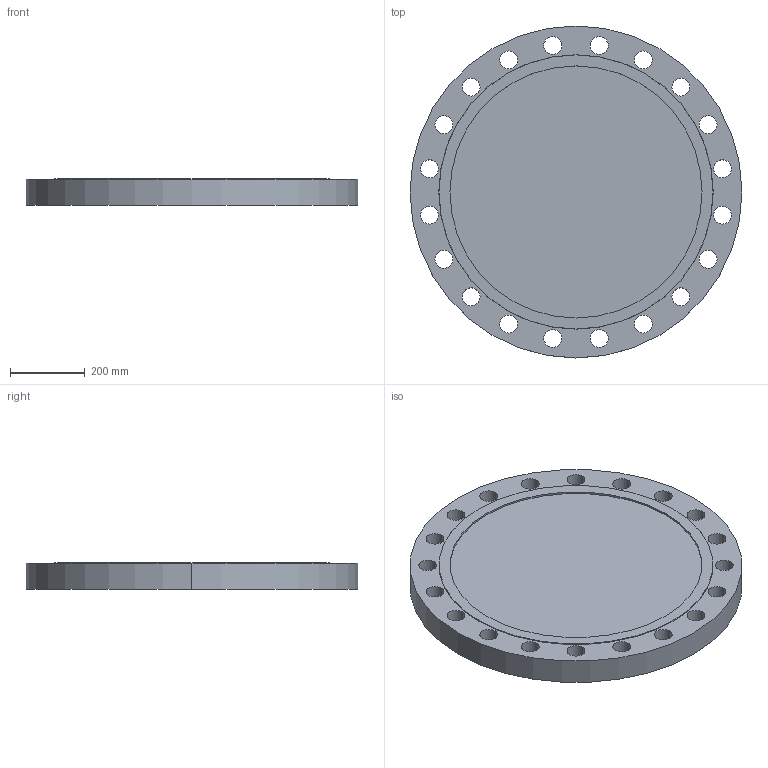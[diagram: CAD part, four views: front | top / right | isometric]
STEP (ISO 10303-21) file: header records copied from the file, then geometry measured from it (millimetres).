
FILE_DESCRIPTION (( 'STEP AP214' ), '1' );
FILE_NAME ('PN40 DN600 Type 05 - Type F Face.STEP', '2018-12-28T23:13:46', ( '' ), ( '' ), 'SwSTEP 2.0', 'SolidWorks 2019', '' );
FILE_SCHEMA (( 'AUTOMOTIVE_DESIGN' ));
Length unit declared in the file: millimetre
Products named in the file (1): PN40 DN600 Type 05 - Type F Face
Bounding box: 890 x 890 x 72 mm (x, y, z)
Volume: 40069449.1 mm3; surface area: 1593177.2 mm2
Topology: 1 solids, 1 shells, 50 faces, 138 edges, 92 vertices
Faces by surface type: cylinder 44, plane 4, cone 2
Entity records: 1768 total; most frequent: DIRECTION 332, CARTESIAN_POINT 281, ORIENTED_EDGE 276, AXIS2_PLACEMENT_3D 143, EDGE_CURVE 138, CIRCLE 92, VERTEX_POINT 92, EDGE_LOOP 92
